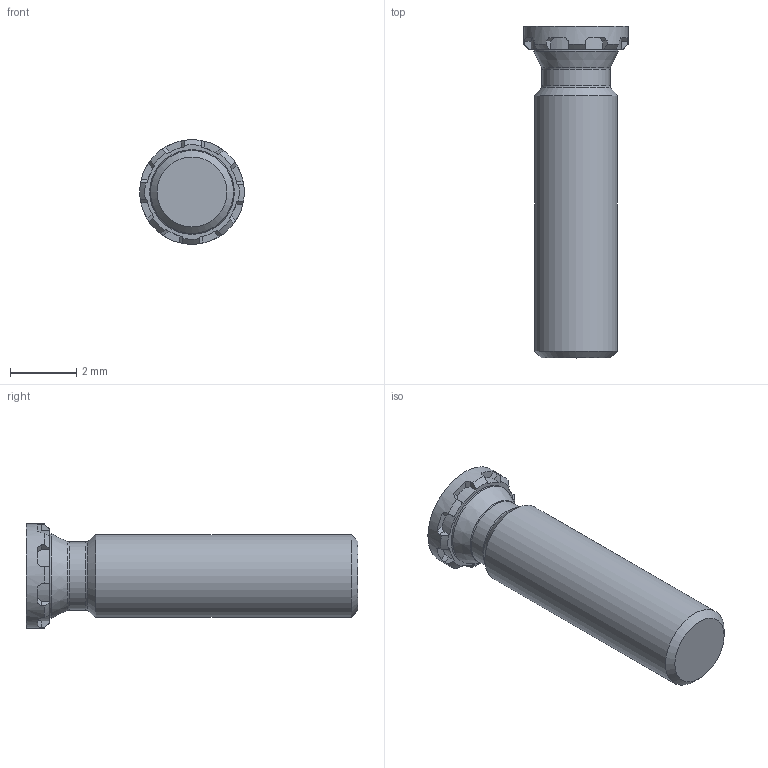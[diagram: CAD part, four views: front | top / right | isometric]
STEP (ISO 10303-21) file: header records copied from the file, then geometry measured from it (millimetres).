
FILE_DESCRIPTION(/* description */ (''),/* implementation_level */ '2;1');
FILE_NAME(/* name */ 'C:\Users\keval.kumar\Desktop\Fastit\Clinch Screw- Reduced FH Range\M2.5\Clinch Screw-Reduced FH Range_M2.5x10.stp',/* time_stamp */ '2024-03-12T12:41:15+05:00',/* author */ ('keval.kumar'),/* organization */ (''),/* preprocessor_version */ 'ST-DEVELOPER v18.1',/* originating_system */ 'Autodesk Inventor 2022',/* authorisation */ '');
FILE_SCHEMA (('AUTOMOTIVE_DESIGN { 1 0 10303 214 3 1 1 }'));
Length unit declared in the file: millimetre
Products named in the file (1): Clinch Screw-Reduced FH Range_M2.5x10
Bounding box: 3.15 x 10 x 3.15 mm (x, y, z)
Volume: 49.1 mm3; surface area: 94 mm2
Topology: 1 solids, 1 shells, 68 faces, 193 edges, 128 vertices
Faces by surface type: plane 43, cylinder 12, cone 11, torus 2
Full cylindrical faces by diameter (mm): 2.05 x1, 2.5 x1, 2.55 x1, 3.15 x1
Entity records: 2278 total; most frequent: CARTESIAN_POINT 422, DIRECTION 405, ORIENTED_EDGE 386, EDGE_CURVE 193, AXIS2_PLACEMENT_3D 159, VERTEX_POINT 128, LINE 87, VECTOR 87
